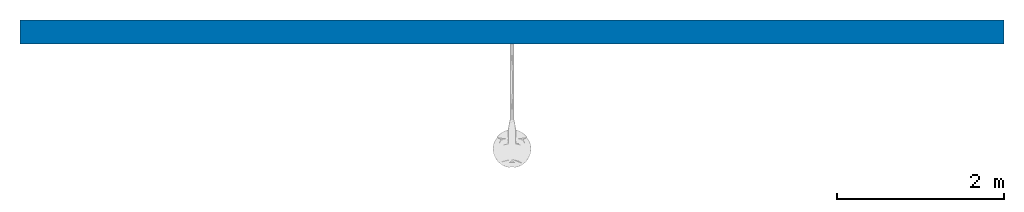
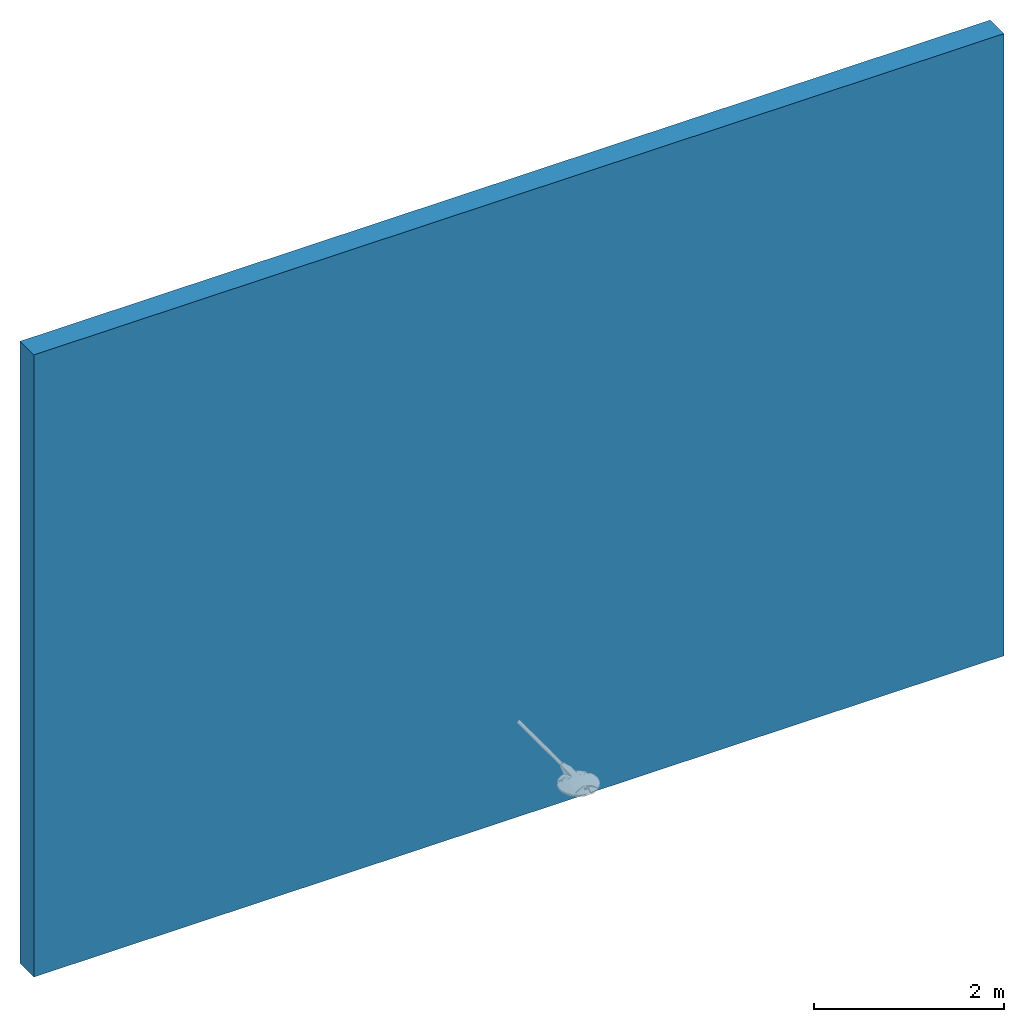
# One storey, incomplete: 1 wall.
"""IFC2X3 building model written with IfcOpenShell, lengths in millimetres."""

from ifc_helpers import new_model, entity, si_unit, converted_unit, derived_unit, direction, frame, frame_2d, origin, place, context, subcontext, project, spatial, rectangle, extrude, material, layer, layer_set, layer_usage, type_object, element, save


model = new_model("IFC2X3")

# Units and contexts
model_context = context("Model", 3, precision=0.01, world=origin(), true_north=direction((6.12303176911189e-17, 1.0)))
body_context = subcontext(model_context, "Body", "Model", "MODEL_VIEW")
ifc_project = project(units=[si_unit("LENGTHUNIT", "METRE", prefix="MILLI"), si_unit("AREAUNIT", "SQUARE_METRE"), si_unit("VOLUMEUNIT", "CUBIC_METRE"), converted_unit("PLANEANGLEUNIT", "DEGREE", entity("IfcRatioMeasure", 0.0174532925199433), si_unit("PLANEANGLEUNIT", "RADIAN"), dimensions=[0, 0, 0, 0, 0, 0, 0]), si_unit("MASSUNIT", "GRAM", prefix="KILO"), si_unit("TIMEUNIT", "SECOND"), si_unit("FREQUENCYUNIT", "HERTZ"), si_unit("THERMODYNAMICTEMPERATUREUNIT", "DEGREE_CELSIUS"), derived_unit("THERMALTRANSMITTANCEUNIT", [(si_unit("MASSUNIT", "GRAM", prefix="KILO"), 1), (si_unit("THERMODYNAMICTEMPERATUREUNIT", "KELVIN"), -1), (si_unit("TIMEUNIT", "SECOND"), -3)]), derived_unit("VOLUMETRICFLOWRATEUNIT", [(si_unit("LENGTHUNIT", "METRE"), 3), (si_unit("TIMEUNIT", "SECOND"), -1)]), si_unit("ELECTRICCURRENTUNIT", "AMPERE"), si_unit("ELECTRICVOLTAGEUNIT", "VOLT"), si_unit("POWERUNIT", "WATT"), si_unit("FORCEUNIT", "NEWTON", prefix="KILO"), si_unit("ILLUMINANCEUNIT", "LUX"), si_unit("LUMINOUSFLUXUNIT", "LUMEN"), si_unit("LUMINOUSINTENSITYUNIT", "CANDELA"), derived_unit("USERDEFINED", [(si_unit("MASSUNIT", "GRAM", prefix="KILO"), -1), (si_unit("LENGTHUNIT", "METRE"), -2), (si_unit("TIMEUNIT", "SECOND"), 3), (si_unit("LUMINOUSFLUXUNIT", "LUMEN"), 1)]), derived_unit("LINEARVELOCITYUNIT", [(si_unit("LENGTHUNIT", "METRE"), 1), (si_unit("TIMEUNIT", "SECOND"), -1)]), si_unit("PRESSUREUNIT", "PASCAL"), derived_unit("USERDEFINED", [(si_unit("LENGTHUNIT", "METRE"), -2), (si_unit("MASSUNIT", "GRAM", prefix="KILO"), 1), (si_unit("TIMEUNIT", "SECOND"), -2)])], contexts=[model_context])

# Site, building, storey
site_placement = place(None, origin())
site = spatial("IfcSite", under=ifc_project, at=site_placement, Name="Default", CompositionType="ELEMENT")
building_placement = place(site_placement, origin())
building = spatial("IfcBuilding", under=site, at=building_placement, CompositionType="ELEMENT")
storey_placement = place(building_placement, origin())
storey = spatial("IfcBuildingStorey", under=building, at=storey_placement, Name="Level 0", CompositionType="ELEMENT", Elevation=0.0)

# Wall
ifc_material_1 = material(Name="Brick, Common")
ifc_layer_1 = layer(ifc_material_1, 102.5)
ifc_material_2 = material(Name="Fiberglass Batt")
ifc_layer_2 = layer(ifc_material_2, 75.0)
ifc_material_3 = material(Name="Concrete Masonry Units _Low Density")
ifc_layer_3 = layer(ifc_material_3, 100.0)
ifc_material_4 = material(Name="Plaster")
ifc_layer_4 = layer(ifc_material_4, 12.5)
ifc_layer_set = layer_set([ifc_layer_1, ifc_layer_2, ifc_layer_3, ifc_layer_4], Name="Basic Wall:Wall-Ext_102Bwk-75Ins-100LBlk-12P")
ifc_layer_usage = layer_usage(ifc_layer_set, "AXIS2", "NEGATIVE", 145.0)
wall_type = type_object("IfcWallType", Name="Basic Wall:Wall-Ext_102Bwk-75Ins-100LBlk-12P", PredefinedType="STANDARD", material=ifc_layer_set)
wall_placement = place(storey_placement, frame((-6982.46234671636, 2524.33152983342, 0.0)))
element("IfcWallStandardCase", 1, at=wall_placement, inside=storey, type_object=wall_type, material=ifc_layer_usage, Name="Basic Wall:Wall-Ext_102Bwk-75Ins-100LBlk-12P", ObjectType="Basic Wall:Wall-Ext_102Bwk-75Ins-100LBlk-12P", context=body_context, shape_type="SweptSolid", body=[
    extrude(rectangle(XDim=11800.0, YDim=290.0, at=frame_2d((5900.0, 1.4210854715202e-14), x_axis=(-1.0, 0.0))), origin(), (0.0, 0.0, 1.0), 8000.0),
])

save(model, "model.ifc")
